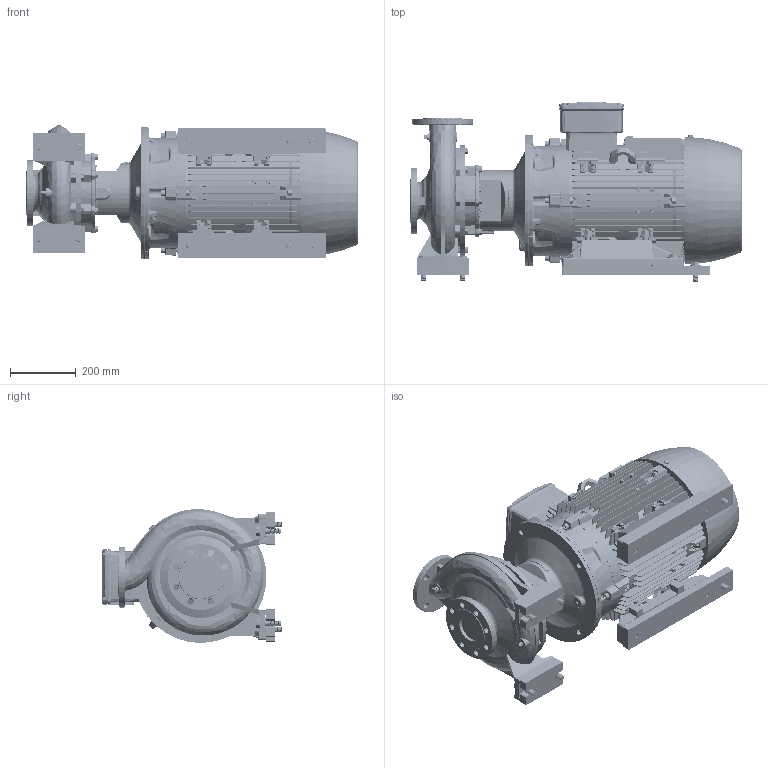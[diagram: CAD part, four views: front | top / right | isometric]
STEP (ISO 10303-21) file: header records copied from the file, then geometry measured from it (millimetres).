
FILE_DESCRIPTION (( 'STEP AP214' ), '1' );
FILE_NAME ('GSD2 65-250_30.0 & 37.0_(200ML)_W21.STEP', '2026-07-08T06:39:55', ( '' ), ( '' ), 'SwSTEP 2.0', 'SolidWorks 2024', '' );
FILE_SCHEMA (( 'AUTOMOTIVE_DESIGN' ));
Length unit declared in the file: millimetre
Products named in the file (10): CGS11-5321_2_3_4_5_CGS11-5322; Parametric bolt and washer_SFT-A359B; 80x25 - CGSDA-5271; 65-250-200M_L_ﾃﾞﾌｫﾙﾄ; Parametric bolt_SFT-A359B; Parametric bolt and washer_SFT-A365B; 200M_L ALIE3_W21T_B35; Parametric bolt_SFT-A365B; GSD2  65-250_30.0 & 37.0_(200ML)_W21; Parametric Flat Washer_M16
Assembly tree (20 placements, depth 3):
  GSD2  65-250_30.0 & 37.0_(200ML)_W21
    65-250-200M_L_ﾃﾞﾌｫﾙﾄ
    CGS11-5321_2_3_4_5_CGS11-5322  x2
    80x25 - CGSDA-5271  x2
    Parametric bolt and washer_SFT-A359B  x6
      Parametric bolt_SFT-A359B
      Parametric Flat Washer_M16
    Parametric bolt and washer_SFT-A365B  x4
      Parametric bolt_SFT-A365B
      Parametric Flat Washer_M16
    200M_L ALIE3_W21T_B35
Bounding box: 1008.8 x 546.5 x 406.44 mm (x, y, z)
Volume: 84731031.3 mm3; surface area: 4467753.1 mm2
Topology: 54 solids, 64 shells, 7549 faces, 19516 edges, 12515 vertices
Faces by surface type: plane 4315, cylinder 1420, bspline 997, cone 602, torus 211, sphere 4
Entity records: 276957 total; most frequent: CARTESIAN_POINT 118283, ORIENTED_EDGE 35488, DIRECTION 28548, EDGE_CURVE 17744, VERTEX_POINT 11429, VECTOR 10848, LINE 10848, AXIS2_PLACEMENT_3D 8850
